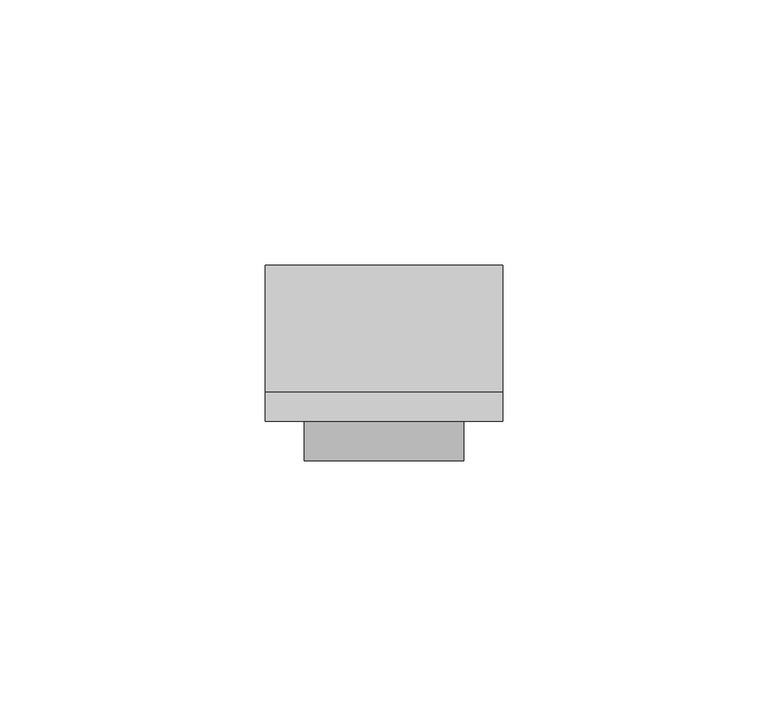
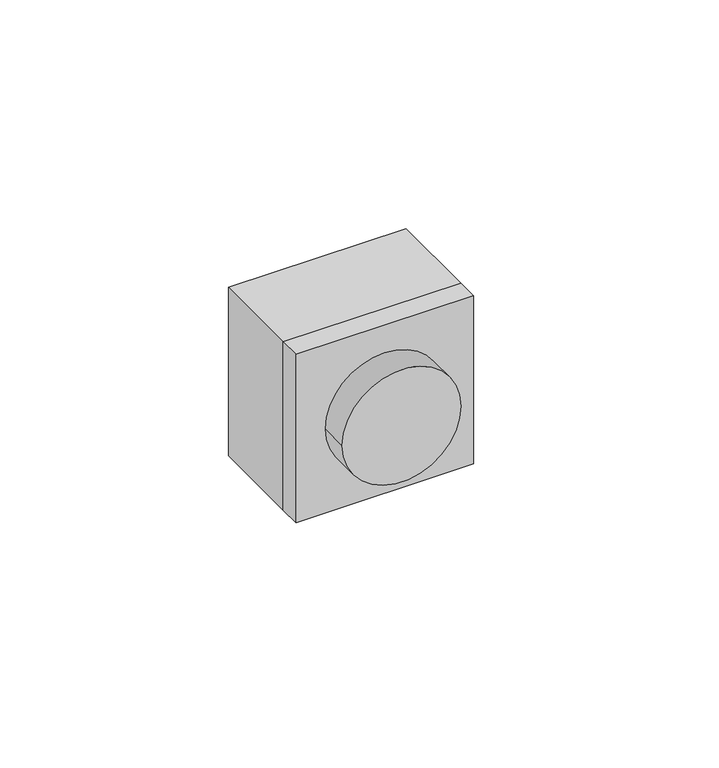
"""IFC4 building model written with IfcOpenShell, lengths in millimetres: proxy geometry."""

from ifc_helpers import new_model, si_unit, point, frame, frame_2d, origin, place, context, project, spatial, polyline, circle_curve, trimmed, segment, composite_curve, outline, extrude, source, transform, mapped, element, save


def electrical_fixtures_da0829a4(model_context):
    return source(origin(), model_context, "Body", "SweptSolid", [
        extrude(outline(composite_curve([segment(trimmed(circle_curve(frame_2d((0.0, 22.45)), 15.0), [point((0.0, 7.45))], [point((0.0, 37.45))], False, "CARTESIAN"), True, "CONTINUOUS"), segment(trimmed(circle_curve(frame_2d((0.0, 22.45)), 15.0), [point((0.0, 37.45))], [point((0.0, 7.45))], False, "CARTESIAN"), True, "CONTINUOUS")], self_intersect=False)), frame((0.0, -47.6, 0.0), z_axis=(0.0, 1.0, 0.0), x_axis=(0.0, 0.0, 1.0)), (0.0, 0.0, 1.0), 7.4),
        extrude(outline(polyline([(0.0, -34.7), (44.9, -34.7), (44.9, -40.2), (0.0, -40.2), (0.0, -34.7)])), frame((0.0, 0.0, -22.45), z_axis=(0.0, 0.0, 1.0), x_axis=(1.0, 0.0, 0.0)), (0.0, 0.0, 1.0), 44.9),
        extrude(outline(polyline([(44.9, -10.7), (44.9, -34.7), (0.0, -34.7), (0.0, -10.7), (44.9, -10.7)])), frame((0.0, 0.0, -22.45), z_axis=(0.0, 0.0, 1.0), x_axis=(1.0, 0.0, 0.0)), (0.0, 0.0, 1.0), 44.9),
    ])


if __name__ == "__main__":
    model = new_model("IFC4")
    model_context = context("Model", 3, world=origin())
    ifc_project = project(units=[si_unit("LENGTHUNIT", "METRE", prefix="MILLI")], contexts=[model_context])
    site = spatial("IfcSite", under=ifc_project)
    building = spatial("IfcBuilding", under=site)
    placement = place(None, origin())
    electrical_fixtures_shape = electrical_fixtures_da0829a4(model_context)
    element("IfcBuildingElementProxy", 1, Name="Electrical Fixtures", at=placement, inside=building, context=model_context, shape_type="MappedRepresentation", body=[
        mapped(electrical_fixtures_shape, transform((0.0, 0.0, 0.0), x_axis=(1.0, 0.0, 0.0), y_axis=(0.0, 1.0, 0.0), z_axis=(0.0, 0.0, 1.0))),
    ])
    save(model, "model.ifc")
